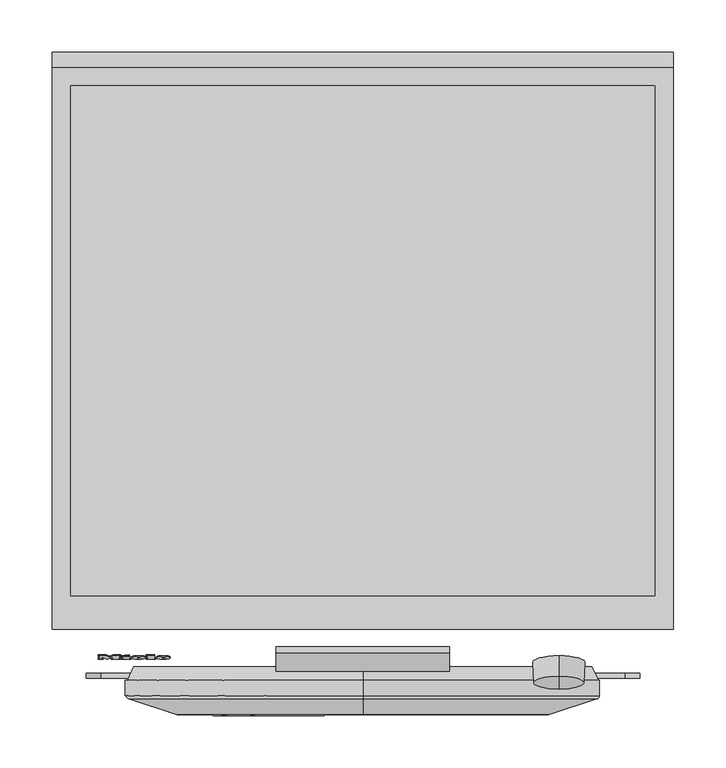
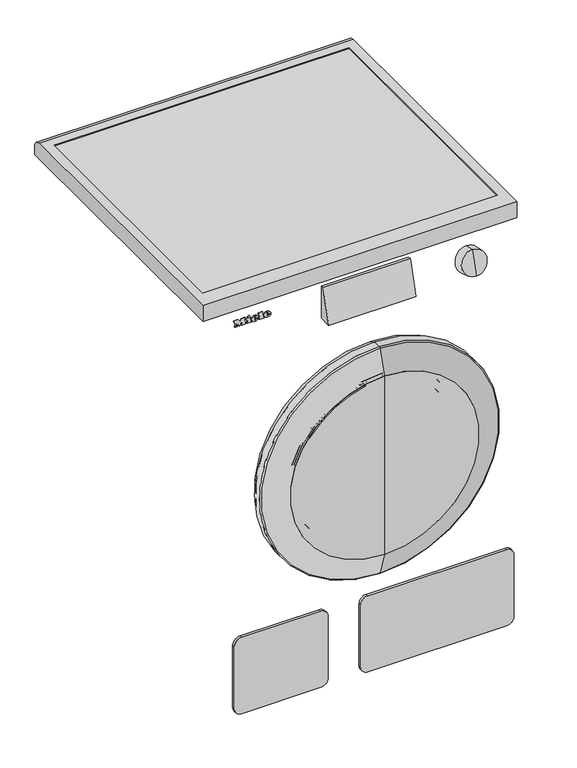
"""IFC4 building model written with IfcOpenShell, lengths in millimetres: proxy geometry, 12434320_NDS_WCB690WCS_LW : 11CB6901_NDS_12434320_WCB690WCS_LW."""

from ifc_helpers import new_model, si_unit, point, frame, frame_2d, origin, place, context, project, spatial, polyline, circle_curve, ellipse_curve, trimmed, segment, composite_curve, outline, extrude, source, transform, mapped, element, save
from ifc_brep_helpers import plane_surface, cylinder_surface, revolved_surface, extruded_surface, advanced_brep


def specialty_equipment_345730a7(model_context):
    return source(origin(), model_context, "Body", "SolidModel", [
        extrude(outline(polyline([(0.0, 0.0), (0.0, -1.8582), (-7.9458, -1.8582), (-11.286, 2.4168), (-14.6148, -1.8582), (-21.5574, -1.8582), (-21.5574, 0.0), (-20.1096, 0.0), (-20.1096, 7.6266), (-21.5574, 7.6266), (-21.5574, 9.5418), (-12.4602, 9.5418), (-12.4602, 7.6266), (-13.8624, 7.6266), (-13.8624, 2.6015777), (-8.7438, 9.5418), (-3.648, 2.7988753), (-3.648, 7.6266), (-5.016, 7.6266), (-5.016, 9.5418), (0.0, 9.5418), (0.0, 7.6266), (-1.3794, 7.6266), (-1.3794, 0.0), (0.0, 0.0)])), frame((-254.0, -578.2806922, 817.2814843), z_axis=(0.0, -0.9659258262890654, 0.2588190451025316), x_axis=(-1.0, 0.0, 0.0)), (0.0, 0.0, 1.0), 1.0),
        extrude(outline(polyline([(0.0, 0.0), (-0.0155448, -4.2740444), (-2.0506341, -4.2637237), (-2.0399312, 0.0), (0.0, 0.0)])), frame((-228.464, -577.9348294, 818.5722618), z_axis=(0.0, -0.9659258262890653, 0.2588190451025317), x_axis=(-0.4247202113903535, 0.23431526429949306, 0.8744764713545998)), (0.0, 0.0, 1.0), 1.0),
        extrude(outline(polyline([(-0.7030818, 3.4401063), (-3.9616202, -3.5057256), (-10.0405132, -0.6538993), (-10.6021632, -1.8511006), (-12.336041, -1.0376764), (-8.5158526, 7.1053568), (-6.7819748, 6.2919326), (-7.3581502, 5.0637692), (-3.1266627, 3.0786269), (-2.5504873, 4.3067903), (-0.7030818, 3.4401063)])), frame((-228.464, -577.9348294, 818.5722618), z_axis=(0.0, -0.9659258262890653, 0.2588190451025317), x_axis=(-0.4247202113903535, 0.23431526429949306, 0.8744764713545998)), (0.0, 0.0, 1.0), 1.0),
        extrude(outline(polyline([(0.0, 0.0), (0.0, -1.8582), (-7.8432, -1.8582), (-7.8432, 7.6266), (-9.2454, 7.6266), (-9.2454, 9.5418), (0.0, 9.5418), (0.0, 7.6266), (-1.368, 7.6266), (-1.368, 0.0), (0.0, 0.0)])), frame((-207.7388, -578.2806922, 817.2814843), z_axis=(0.0, -0.9659258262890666, 0.2588190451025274), x_axis=(-1.0, 0.0, 0.0)), (0.0, 0.0, 1.0), 1.0),
        advanced_brep(
        [(-216.0038, -581.029736, 810.8856165), (-216.0038, -580.7317318, 811.9977835), (-208.3772, -580.7317318, 811.9977835), (-221.6468, -580.7317318, 811.9977835), (-218.5118, -581.7290133, 808.2758781), (-208.571, -581.029736, 810.8856165), (-212.0138, -581.029736, 810.8856165), (-214.727, -581.3601962, 809.6523224), (-216.0038, -580.354063, 813.4072624), (-216.0038, -580.0324545, 814.6075219), (-214.0544, -580.0324545, 814.6075219), (-214.0544, -580.354063, 813.4072624), (-216.0038, -580.0638102, 810.6267974), (-214.727, -580.3942704, 809.3935033), (-212.0138, -580.0638102, 810.6267974), (-208.571, -580.0638102, 810.6267974), (-218.5118, -580.7630875, 808.017059), (-221.6468, -579.765806, 811.7389644), (-208.3772, -579.765806, 811.7389644), (-216.0038, -579.765806, 811.7389644), (-216.0038, -579.3881372, 813.1484434), (-214.0544, -579.3881372, 813.1484434), (-214.0544, -579.0665287, 814.3487028), (-216.0038, -579.0665287, 814.3487028)],
        [
            (0, 1),
            (1, 2),
            (2, 3, ellipse_curve(frame((-215.012, -580.7317318, 811.9977835), z_axis=(0.0, -0.9659258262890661, 0.2588190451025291), x_axis=(-1.0, 0.0, 0.0)), 6.6348, 5.4834)),
            (3, 4, circle_curve(frame((-217.2349378, -580.6314135, 812.3721763), z_axis=(0.0, -0.9659258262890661, 0.2588190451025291), x_axis=(0.0, -0.2588190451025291, -0.9659258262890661)), 4.4288556)),
            (4, 5, circle_curve(frame((-215.1448192, -579.8524717, 815.2792267), z_axis=(0.0, -0.9659258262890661, 0.2588190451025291), x_axis=(0.0, -0.2588190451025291, -0.9659258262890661)), 7.9940516)),
            (5, 6),
            (6, 7, circle_curve(frame((-214.1697412, -580.7553361, 811.909691), z_axis=(0.0, 0.9659258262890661, -0.2588190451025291), x_axis=(0.0, -0.2588190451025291, -0.9659258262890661)), 2.4025208)),
            (7, 0, circle_curve(frame((-214.727, -581.029736, 810.8856165), z_axis=(0.0, 0.9659258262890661, -0.2588190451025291), x_axis=(0.0, -0.2588190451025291, -0.9659258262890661)), 1.2768)),
            (8, 9),
            (9, 10, circle_curve(frame((-215.0291, -580.0324545, 814.6075219), z_axis=(0.0, 0.9659258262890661, -0.2588190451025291), x_axis=(0.0, -0.2588190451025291, -0.9659258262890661)), 0.9747)),
            (10, 11),
            (11, 8),
            (12, 13, circle_curve(frame((-214.727, -580.0638102, 810.6267974), z_axis=(0.0, -0.9659258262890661, 0.2588190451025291), x_axis=(0.0, -0.2588190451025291, -0.9659258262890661)), 1.2768)),
            (13, 14, circle_curve(frame((-214.1697412, -579.7894103, 811.650872), z_axis=(0.0, -0.9659258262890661, 0.2588190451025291), x_axis=(0.0, -0.2588190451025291, -0.9659258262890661)), 2.4025208)),
            (14, 15),
            (15, 16, circle_curve(frame((-215.1448192, -578.8865459, 815.0204076), z_axis=(0.0, 0.9659258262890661, -0.2588190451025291), x_axis=(0.0, -0.2588190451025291, -0.9659258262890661)), 7.9940516)),
            (16, 17, circle_curve(frame((-217.2349378, -579.6654877, 812.1133573), z_axis=(0.0, 0.9659258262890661, -0.2588190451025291), x_axis=(0.0, -0.2588190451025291, -0.9659258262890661)), 4.4288556)),
            (17, 18, ellipse_curve(frame((-215.012, -579.765806, 811.7389644), z_axis=(0.0, 0.9659258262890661, -0.2588190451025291), x_axis=(-1.0, 0.0, 0.0)), 6.6348, 5.4834)),
            (18, 19),
            (19, 12),
            (20, 21),
            (21, 22),
            (22, 23, circle_curve(frame((-215.0291, -579.0665287, 814.3487028), z_axis=(0.0, -0.9659258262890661, 0.2588190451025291), x_axis=(0.0, -0.2588190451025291, -0.9659258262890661)), 0.9747)),
            (23, 20),
            (0, 12),
            (19, 1),
            (18, 2),
            (5, 15),
            (14, 6),
            (17, 3),
            (13, 7),
            (16, 4),
            (8, 20),
            (23, 9),
            (22, 10),
            (21, 11),
        ],
        [
            plane_surface(frame((-216.0038, -580.7317318, 811.9977835), z_axis=(0.0, -0.9659258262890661, 0.2588190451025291), x_axis=(0.0, 0.2588190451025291, 0.9659258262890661))),
            plane_surface(frame((-216.0038, -579.765806, 811.7389644), z_axis=(0.0, 0.9659258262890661, -0.2588190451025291), x_axis=(0.0, -0.2588190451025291, -0.9659258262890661))),
            plane_surface(frame((-216.0038, -581.029736, 810.8856165), z_axis=(1.0, 0.0, 0.0), x_axis=(0.0, 0.9659258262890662, -0.25881904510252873))),
            plane_surface(frame((-216.0038, -580.7317318, 811.9977835), z_axis=(0.0, -0.25881904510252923, -0.9659258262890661), x_axis=(0.0, 0.9659258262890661, -0.25881904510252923))),
            plane_surface(frame((-208.571, -581.029736, 810.8856165), z_axis=(0.0, 0.25881904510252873, 0.9659258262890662), x_axis=(0.0, 0.9659258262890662, -0.25881904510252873))),
            extruded_surface(trimmed(ellipse_curve(frame((-215.012, -578.7998801, 811.4801454), z_axis=(0.0, -0.9659258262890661, 0.2588190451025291), x_axis=(-1.0, 0.0, 0.0)), 6.6348, 5.4834), [point((-208.3772, -578.7998801, 811.4801454))], [point((-221.6468, -578.7998801, 811.4801454))], True, "CARTESIAN"), (0.0, -0.965925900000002, 0.2588190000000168), 1.0000000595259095),
            revolved_surface(polyline([(-214.1697412, -580.4112283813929, 809.3302150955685), (-214.1697412, -581.3771542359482, 809.589034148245)]), (-214.1697412, -579.7894103, 811.650872), (0.0, 0.9659258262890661, -0.2588190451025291)),
            revolved_surface(polyline([(-214.727, -580.3942703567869, 809.393503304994), (-214.727, -581.3601962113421, 809.6523223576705)]), (-214.727, -580.0638102, 810.6267974), (0.0, 0.9659258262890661, -0.2588190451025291)),
            cylinder_surface(frame((-217.2349378, -579.6654877, 812.1133573), z_axis=(0.0, -0.9659258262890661, 0.2588190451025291), x_axis=(0.0, -0.2588190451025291, -0.9659258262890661)), 4.4288556),
            cylinder_surface(frame((-215.1448192, -578.8865459, 815.0204076), z_axis=(0.0, -0.9659258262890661, 0.2588190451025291), x_axis=(0.0, -0.2588190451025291, -0.9659258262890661)), 7.9940516),
            plane_surface(frame((-216.0038, -580.354063, 813.4072624), z_axis=(1.0, 0.0, 0.0), x_axis=(0.0, 0.9659258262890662, -0.25881904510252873))),
            revolved_surface(polyline([(-215.0291, -579.3187996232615, 813.407214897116), (-215.0291, -580.2847254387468, 813.6660339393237)]), (-215.0291, -579.0665287, 814.3487028), (0.0, 0.9659258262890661, -0.2588190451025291)),
            plane_surface(frame((-214.0544, -580.0324545, 814.6075219), z_axis=(-1.0, 0.0, 0.0), x_axis=(0.0, 0.9659258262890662, -0.25881904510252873))),
            plane_surface(frame((-214.0544, -580.354063, 813.4072624), z_axis=(0.0, 0.25881904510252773, 0.9659258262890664), x_axis=(0.0, 0.9659258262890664, -0.25881904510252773))),
        ],
        [
            (0, [[1, 2, 3, 4, 5, 6, 7, 8], [9, 10, 11, 12]]),
            (1, [[13, 14, 15, 16, 17, 18, 19, 20], [21, 22, 23, 24]]),
            (2, [[-1, 25, -20, 26]]),
            (3, [[-2, -26, -19, 27]]),
            (4, [[-6, 28, -15, 29]]),
            (5, [[-3, -27, -18, 30]]),
            (6, [[-7, -29, -14, 31]]),
            (7, [[-8, -31, -13, -25]]),
            (8, [[-4, -30, -17, 32]]),
            (9, [[-5, -32, -16, -28]]),
            (10, [[-9, 33, -24, 34]]),
            (11, [[-10, -34, -23, 35]]),
            (12, [[-11, -35, -22, 36]]),
            (13, [[-12, -36, -21, -33]]),
        ],
    ),
        advanced_brep(
        [(-192.212, -581.029736, 810.8856165), (-192.212, -580.7317318, 811.9977835), (-184.5854, -580.7317318, 811.9977835), (-197.855, -580.7317318, 811.9977835), (-194.72, -581.7290133, 808.2758781), (-184.7792, -581.029736, 810.8856165), (-188.222, -581.029736, 810.8856165), (-190.9352, -581.3601962, 809.6523224), (-192.212, -580.354063, 813.4072624), (-192.212, -580.0324545, 814.6075219), (-190.2626, -580.0324545, 814.6075219), (-190.2626, -580.354063, 813.4072624), (-192.212, -580.0638102, 810.6267974), (-190.9352, -580.3942704, 809.3935033), (-188.222, -580.0638102, 810.6267974), (-184.7792, -580.0638102, 810.6267974), (-194.72, -580.7630875, 808.017059), (-197.855, -579.765806, 811.7389644), (-184.5854, -579.765806, 811.7389644), (-192.212, -579.765806, 811.7389644), (-192.212, -579.3881372, 813.1484434), (-190.2626, -579.3881372, 813.1484434), (-190.2626, -579.0665287, 814.3487028), (-192.212, -579.0665287, 814.3487028)],
        [
            (0, 1),
            (1, 2),
            (2, 3, ellipse_curve(frame((-191.2202, -580.7317318, 811.9977835), z_axis=(0.0, -0.965925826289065, 0.25881904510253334), x_axis=(-1.0, 0.0, 0.0)), 6.6348, 5.4834)),
            (3, 4, circle_curve(frame((-193.4431378, -580.6314135, 812.3721763), z_axis=(0.0, -0.9659258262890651, 0.25881904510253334), x_axis=(0.0, -0.2588190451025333, -0.9659258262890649)), 4.4288556)),
            (4, 5, circle_curve(frame((-191.3530192, -579.8524717, 815.2792267), z_axis=(0.0, -0.9659258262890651, 0.25881904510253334), x_axis=(0.0, -0.2588190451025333, -0.9659258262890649)), 7.9940516)),
            (5, 6),
            (6, 7, circle_curve(frame((-190.3779412, -580.7553361, 811.909691), z_axis=(0.0, 0.9659258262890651, -0.25881904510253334), x_axis=(0.0, -0.2588190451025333, -0.9659258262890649)), 2.4025208)),
            (7, 0, circle_curve(frame((-190.9352, -581.029736, 810.8856165), z_axis=(0.0, 0.9659258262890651, -0.25881904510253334), x_axis=(0.0, -0.2588190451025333, -0.9659258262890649)), 1.2768)),
            (8, 9),
            (9, 10, circle_curve(frame((-191.2373, -580.0324545, 814.6075219), z_axis=(0.0, 0.9659258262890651, -0.25881904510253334), x_axis=(0.0, -0.2588190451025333, -0.9659258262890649)), 0.9747)),
            (10, 11),
            (11, 8),
            (12, 13, circle_curve(frame((-190.9352, -580.0638102, 810.6267974), z_axis=(0.0, -0.9659258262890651, 0.25881904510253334), x_axis=(0.0, -0.2588190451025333, -0.9659258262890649)), 1.2768)),
            (13, 14, circle_curve(frame((-190.3779412, -579.7894103, 811.650872), z_axis=(0.0, -0.9659258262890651, 0.25881904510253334), x_axis=(0.0, -0.2588190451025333, -0.9659258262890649)), 2.4025208)),
            (14, 15),
            (15, 16, circle_curve(frame((-191.3530192, -578.8865459, 815.0204076), z_axis=(0.0, 0.9659258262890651, -0.25881904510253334), x_axis=(0.0, -0.2588190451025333, -0.9659258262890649)), 7.9940516)),
            (16, 17, circle_curve(frame((-193.4431378, -579.6654877, 812.1133573), z_axis=(0.0, 0.9659258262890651, -0.25881904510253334), x_axis=(0.0, -0.2588190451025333, -0.9659258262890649)), 4.4288556)),
            (17, 18, ellipse_curve(frame((-191.2202, -579.765806, 811.7389644), z_axis=(0.0, 0.965925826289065, -0.25881904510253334), x_axis=(-1.0, 0.0, 0.0)), 6.6348, 5.4834)),
            (18, 19),
            (19, 12),
            (20, 21),
            (21, 22),
            (22, 23, circle_curve(frame((-191.2373, -579.0665287, 814.3487028), z_axis=(0.0, -0.9659258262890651, 0.25881904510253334), x_axis=(0.0, -0.2588190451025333, -0.9659258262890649)), 0.9747)),
            (23, 20),
            (0, 12),
            (19, 1),
            (18, 2),
            (5, 15),
            (14, 6),
            (17, 3),
            (13, 7),
            (16, 4),
            (8, 20),
            (23, 9),
            (22, 10),
            (21, 11),
        ],
        [
            plane_surface(frame((-192.212, -580.7317318, 811.9977835), z_axis=(0.0, -0.965925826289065, 0.25881904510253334), x_axis=(0.0, 0.25881904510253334, 0.965925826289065))),
            plane_surface(frame((-192.212, -579.765806, 811.7389644), z_axis=(0.0, 0.965925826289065, -0.25881904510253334), x_axis=(0.0, -0.25881904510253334, -0.965925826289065))),
            plane_surface(frame((-192.212, -581.029736, 810.8856165), z_axis=(1.0, 0.0, 0.0), x_axis=(0.0, 0.9659258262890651, -0.2588190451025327))),
            plane_surface(frame((-192.212, -580.7317318, 811.9977835), z_axis=(0.0, -0.25881904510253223, -0.9659258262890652), x_axis=(0.0, 0.9659258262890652, -0.25881904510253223))),
            plane_surface(frame((-184.7792, -581.029736, 810.8856165), z_axis=(0.0, 0.2588190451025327, 0.9659258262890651), x_axis=(0.0, 0.9659258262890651, -0.2588190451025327))),
            extruded_surface(trimmed(ellipse_curve(frame((-191.2202, -578.7998801, 811.4801454), z_axis=(0.0, -0.965925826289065, 0.25881904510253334), x_axis=(-1.0, 0.0, 0.0)), 6.6348, 5.4834), [point((-184.5854, -578.7998801, 811.4801454))], [point((-197.855, -578.7998801, 811.4801454))], True, "CARTESIAN"), (0.0, -0.965925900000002, 0.2588190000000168), 1.0000000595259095),
            revolved_surface(polyline([(-190.3779412, -580.4112283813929, 809.3302150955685), (-190.3779412, -581.3771542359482, 809.589034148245)]), (-190.3779412, -579.7894103, 811.650872), (0.0, 0.9659258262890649, -0.2588190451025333)),
            revolved_surface(polyline([(-190.9352, -580.3942703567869, 809.393503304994), (-190.9352, -581.3601962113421, 809.6523223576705)]), (-190.9352, -580.0638102, 810.6267974), (0.0, 0.9659258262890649, -0.2588190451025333)),
            cylinder_surface(frame((-193.4431378, -579.6654877, 812.1133573), z_axis=(0.0, -0.9659258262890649, 0.2588190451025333), x_axis=(0.0, -0.2588190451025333, -0.9659258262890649)), 4.4288556),
            cylinder_surface(frame((-191.3530192, -578.8865459, 815.0204076), z_axis=(0.0, -0.9659258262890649, 0.2588190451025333), x_axis=(0.0, -0.2588190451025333, -0.9659258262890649)), 7.9940516),
            plane_surface(frame((-192.212, -580.354063, 813.4072624), z_axis=(1.0, 0.0, 0.0), x_axis=(0.0, 0.9659258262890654, -0.25881904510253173))),
            revolved_surface(polyline([(-191.2373, -579.3187996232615, 813.407214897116), (-191.2373, -580.2847254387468, 813.6660339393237)]), (-191.2373, -579.0665287, 814.3487028), (0.0, 0.9659258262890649, -0.2588190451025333)),
            plane_surface(frame((-190.2626, -580.0324545, 814.6075219), z_axis=(-1.0, 0.0, 0.0), x_axis=(0.0, 0.9659258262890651, -0.2588190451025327))),
            plane_surface(frame((-190.2626, -580.354063, 813.4072624), z_axis=(0.0, 0.2588190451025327, 0.9659258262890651), x_axis=(0.0, 0.9659258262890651, -0.2588190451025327))),
        ],
        [
            (0, [[1, 2, 3, 4, 5, 6, 7, 8], [9, 10, 11, 12]]),
            (1, [[13, 14, 15, 16, 17, 18, 19, 20], [21, 22, 23, 24]]),
            (2, [[-1, 25, -20, 26]]),
            (3, [[-2, -26, -19, 27]]),
            (4, [[-6, 28, -15, 29]]),
            (5, [[-3, -27, -18, 30]]),
            (6, [[-7, -29, -14, 31]]),
            (7, [[-8, -31, -13, -25]]),
            (8, [[-4, -30, -17, 32]]),
            (9, [[-5, -32, -16, -28]]),
            (10, [[-9, 33, -24, 34]]),
            (11, [[-10, -34, -23, 35]]),
            (12, [[-11, -35, -22, 36]]),
            (13, [[-12, -36, -21, -33]]),
        ],
    ),
        extrude(outline(composite_curve([segment(trimmed(circle_curve(frame_2d((475.0, 0.0)), 179.0077488), [point((650.0572384, -37.3996979))], [point((581.8669772, -143.6078804))], False, "CARTESIAN"), True, "CONTINUOUS"), segment(polyline([(581.8669772, -143.6078804), (580.6729844, -142.0033925)]), True, "CONTINUOUS"), segment(trimmed(circle_curve(frame_2d((475.0, 0.0)), 177.0077488), [point((580.6729844, -142.0033925))], [point((648.1013763, -36.9818423))], True, "CARTESIAN"), True, "CONTINUOUS"), segment(polyline([(648.1013763, -36.9818423), (650.0572384, -37.3996979)]), True, "CONTINUOUS")], self_intersect=False)), frame((0.0, -636.0, 0.0), z_axis=(0.0, 1.0, 0.0), x_axis=(0.0, 0.0, 1.0)), (0.0, 0.0, 1.0), 1.0),
        advanced_brep(
        [(0.0, -635.0, 296.0), (0.0, -635.0, 654.0), (0.0, -630.9005671, 650.4364173), (0.0, -630.9005671, 299.5635827), (0.0, -635.0, 475.0), (0.0, -589.0, 326.0), (0.0, -589.0, 624.0), (0.0, -589.0, 475.0), (0.0, -592.0, 326.0), (0.0, -592.0, 624.0), (0.0, -592.0, 313.0), (0.0, -592.0, 637.0), (0.0, -610.8709778, 313.0), (0.0, -610.8709778, 637.0), (0.0, -628.93239, 297.2994539), (0.0, -628.93239, 652.7005461)],
        [
            (0, 1, circle_curve(frame((0.0, -635.0, 475.0), z_axis=(0.0, 1.0, 0.0), x_axis=(0.0, 0.0, 1.0)), 179.0)),
            (1, 2),
            (2, 3, circle_curve(frame((0.0, -630.9005671, 475.0), z_axis=(0.0, -1.0, 0.0), x_axis=(0.0, 0.0, 1.0)), 175.4364173)),
            (3, 0),
            (1, 0, circle_curve(frame((0.0, -635.0, 475.0), z_axis=(0.0, 1.0, 0.0), x_axis=(0.0, 0.0, 1.0)), 179.0)),
            (3, 2, circle_curve(frame((0.0, -630.9005671, 475.0), z_axis=(0.0, -1.0, 0.0), x_axis=(0.0, 0.0, 1.0)), 175.4364173)),
            (4, 1),
            (0, 4),
            (5, 6, circle_curve(frame((0.0, -589.0, 475.0), z_axis=(0.0, 1.0, 0.0), x_axis=(0.0, 0.0, 1.0)), 149.0)),
            (6, 7),
            (7, 5),
            (6, 5, circle_curve(frame((0.0, -589.0, 475.0), z_axis=(0.0, 1.0, 0.0), x_axis=(0.0, 0.0, 1.0)), 149.0)),
            (8, 9, circle_curve(frame((0.0, -592.0, 475.0), z_axis=(0.0, 1.0, 0.0), x_axis=(0.0, 0.0, 1.0)), 149.0)),
            (9, 6),
            (5, 8),
            (9, 8, circle_curve(frame((0.0, -592.0, 475.0), z_axis=(0.0, 1.0, 0.0), x_axis=(0.0, 0.0, 1.0)), 149.0)),
            (10, 11, circle_curve(frame((0.0, -592.0, 475.0), z_axis=(0.0, 1.0, 0.0), x_axis=(0.0, 0.0, 1.0)), 162.0)),
            (11, 9),
            (8, 10),
            (11, 10, circle_curve(frame((0.0, -592.0, 475.0), z_axis=(0.0, 1.0, 0.0), x_axis=(0.0, 0.0, 1.0)), 162.0)),
            (12, 13, circle_curve(frame((0.0, -610.8709778, 475.0), z_axis=(0.0, 1.0, 0.0), x_axis=(0.0, 0.0, 1.0)), 162.0)),
            (13, 11),
            (10, 12),
            (13, 12, circle_curve(frame((0.0, -610.8709778, 475.0), z_axis=(0.0, 1.0, 0.0), x_axis=(0.0, 0.0, 1.0)), 162.0)),
            (14, 15, circle_curve(frame((0.0, -628.93239, 475.0), z_axis=(0.0, 1.0, 0.0), x_axis=(0.0, 0.0, 1.0)), 177.7005461)),
            (15, 13),
            (12, 14),
            (15, 14, circle_curve(frame((0.0, -628.93239, 475.0), z_axis=(0.0, 1.0, 0.0), x_axis=(0.0, 0.0, 1.0)), 177.7005461)),
            (2, 15),
            (14, 3),
        ],
        [
            revolved_surface(polyline([(0.0, -630.9005671, 650.4364173), (0.0, -635.0, 654.0)]), (0.0, -2342.7556811, 475.0), (0.0, -1.0, 0.0)),
            plane_surface(frame((0.0, -635.0, 475.0), z_axis=(0.0, -1.0, 0.0), x_axis=(0.0, 0.0, 1.0))),
            plane_surface(frame((0.0, -589.0, 475.0), z_axis=(0.0, 1.0, 0.0), x_axis=(0.0, 0.0, 1.0))),
            cylinder_surface(frame((0.0, -2342.7556811, 475.0), z_axis=(0.0, -1.0, 0.0), x_axis=(0.0, 0.0, 1.0)), 149.0),
            plane_surface(frame((0.0, -592.0, 475.0), z_axis=(0.0, 1.0, 0.0), x_axis=(0.0, 0.0, 1.0))),
            cylinder_surface(frame((0.0, -2342.7556811, 475.0), z_axis=(0.0, -1.0, 0.0), x_axis=(0.0, 0.0, 1.0)), 162.0),
            revolved_surface(polyline([(0.0, -610.8709778, 637.0), (0.0, -628.93239, 652.7005461)]), (0.0, -2342.7556811, 475.0), (0.0, -1.0, 0.0)),
            revolved_surface(polyline([(0.0, -628.93239, 652.7005461), (0.0, -630.9005671, 650.4364173)]), (0.0, -2342.7556811, 475.0), (0.0, -1.0, 0.0)),
        ],
        [
            (0, [[1, 2, 3, 4]]),
            (0, [[5, -4, 6, -2]]),
            (1, [[7, -1, 8]]),
            (1, [[-8, -5, -7]]),
            (2, [[9, 10, 11]]),
            (2, [[12, -11, -10]]),
            (3, [[13, 14, -9, 15]]),
            (3, [[16, -15, -12, -14]]),
            (4, [[17, 18, -13, 19]]),
            (4, [[20, -19, -16, -18]]),
            (5, [[21, 22, -17, 23]]),
            (5, [[24, -23, -20, -22]]),
            (6, [[25, 26, -21, 27]]),
            (6, [[28, -27, -24, -26]]),
            (7, [[-3, 29, -25, 30]]),
            (7, [[-6, -30, -28, -29]]),
        ],
    ),
        advanced_brep(
        [(0.0, -589.0, 254.0), (0.0, -589.0, 696.0), (0.0, -589.0, 624.0), (0.0, -589.0, 326.0), (0.0, -602.0, 248.0), (0.0, -602.0, 702.0), (0.0, -602.0, 313.0), (0.0, -602.0, 637.0), (0.0, -592.0, 313.0), (0.0, -592.0, 637.0), (0.0, -592.0, 326.0), (0.0, -592.0, 624.0)],
        [
            (0, 1, circle_curve(frame((0.0, -589.0, 475.0), z_axis=(0.0, 1.0, 0.0), x_axis=(0.0, 0.0, 1.0)), 221.0)),
            (1, 2),
            (2, 3, circle_curve(frame((0.0, -589.0, 475.0), z_axis=(0.0, -1.0, 0.0), x_axis=(0.0, 0.0, 1.0)), 149.0)),
            (3, 0),
            (1, 0, circle_curve(frame((0.0, -589.0, 475.0), z_axis=(0.0, 1.0, 0.0), x_axis=(0.0, 0.0, 1.0)), 221.0)),
            (3, 2, circle_curve(frame((0.0, -589.0, 475.0), z_axis=(0.0, -1.0, 0.0), x_axis=(0.0, 0.0, 1.0)), 149.0)),
            (4, 5, circle_curve(frame((0.0, -602.0, 475.0), z_axis=(0.0, 1.0, 0.0), x_axis=(0.0, 0.0, 1.0)), 227.0)),
            (5, 1),
            (0, 4),
            (5, 4, circle_curve(frame((0.0, -602.0, 475.0), z_axis=(0.0, 1.0, 0.0), x_axis=(0.0, 0.0, 1.0)), 227.0)),
            (6, 7, circle_curve(frame((0.0, -602.0, 475.0), z_axis=(0.0, 1.0, 0.0), x_axis=(0.0, 0.0, 1.0)), 162.0)),
            (7, 5),
            (4, 6),
            (7, 6, circle_curve(frame((0.0, -602.0, 475.0), z_axis=(0.0, 1.0, 0.0), x_axis=(0.0, 0.0, 1.0)), 162.0)),
            (8, 9, circle_curve(frame((0.0, -592.0, 475.0), z_axis=(0.0, 1.0, 0.0), x_axis=(0.0, 0.0, 1.0)), 162.0)),
            (9, 7),
            (6, 8),
            (9, 8, circle_curve(frame((0.0, -592.0, 475.0), z_axis=(0.0, 1.0, 0.0), x_axis=(0.0, 0.0, 1.0)), 162.0)),
            (10, 11, circle_curve(frame((0.0, -592.0, 475.0), z_axis=(0.0, 1.0, 0.0), x_axis=(0.0, 0.0, 1.0)), 149.0)),
            (11, 9),
            (8, 10),
            (11, 10, circle_curve(frame((0.0, -592.0, 475.0), z_axis=(0.0, 1.0, 0.0), x_axis=(0.0, 0.0, 1.0)), 149.0)),
            (2, 11),
            (10, 3),
        ],
        [
            plane_surface(frame((0.0, -589.0, 475.0), z_axis=(0.0, 1.0, 0.0), x_axis=(0.0, 0.0, 1.0))),
            revolved_surface(polyline([(0.0, -589.0, 696.0), (0.0, -602.0, 702.0)]), (0.0, -2342.7556811, 475.0), (0.0, -1.0, 0.0)),
            plane_surface(frame((0.0, -602.0, 475.0), z_axis=(0.0, -1.0, 0.0), x_axis=(0.0, 0.0, 1.0))),
            revolved_surface(polyline([(0.0, -602.0, 637.0), (0.0, -592.0, 637.0)]), (0.0, -2342.7556811, 475.0), (0.0, -1.0, 0.0)),
            plane_surface(frame((0.0, -592.0, 475.0), z_axis=(0.0, -1.0, 0.0), x_axis=(0.0, 0.0, 1.0))),
            revolved_surface(polyline([(0.0, -592.0, 624.0), (0.0, -589.0, 624.0)]), (0.0, -2342.7556811, 475.0), (0.0, -1.0, 0.0)),
        ],
        [
            (0, [[1, 2, 3, 4]]),
            (0, [[5, -4, 6, -2]]),
            (1, [[7, 8, -1, 9]]),
            (1, [[10, -9, -5, -8]]),
            (2, [[11, 12, -7, 13]]),
            (2, [[14, -13, -10, -12]]),
            (3, [[15, 16, -11, 17]]),
            (3, [[18, -17, -14, -16]]),
            (4, [[19, 20, -15, 21]]),
            (4, [[22, -21, -18, -20]]),
            (5, [[-3, 23, -19, 24]]),
            (5, [[-6, -24, -22, -23]]),
        ],
    ),
        advanced_brep(
        [(0.0, -628.93239, 297.2994539), (0.0, -628.93239, 652.7005461), (0.0, -626.9642129, 654.9646748), (0.0, -626.9642129, 295.0353252), (0.0, -610.8709778, 313.0), (0.0, -610.8709778, 637.0), (0.0, -602.0, 313.0), (0.0, -602.0, 637.0), (0.0, -609.7493238, 640.0), (0.0, -609.7493238, 310.0), (0.0, -602.0, 310.0), (0.0, -602.0, 640.0)],
        [
            (0, 1, circle_curve(frame((0.0, -628.93239, 475.0), z_axis=(0.0, 1.0, 0.0), x_axis=(0.0, 0.0, 1.0)), 177.7005461)),
            (1, 2),
            (2, 3, circle_curve(frame((0.0, -626.9642129, 475.0), z_axis=(0.0, -1.0, 0.0), x_axis=(0.0, 0.0, 1.0)), 179.9646748)),
            (3, 0),
            (1, 0, circle_curve(frame((0.0, -628.93239, 475.0), z_axis=(0.0, 1.0, 0.0), x_axis=(0.0, 0.0, 1.0)), 177.7005461)),
            (3, 2, circle_curve(frame((0.0, -626.9642129, 475.0), z_axis=(0.0, -1.0, 0.0), x_axis=(0.0, 0.0, 1.0)), 179.9646748)),
            (4, 5, circle_curve(frame((0.0, -610.8709778, 475.0), z_axis=(0.0, 1.0, 0.0), x_axis=(0.0, 0.0, 1.0)), 162.0)),
            (5, 1),
            (0, 4),
            (5, 4, circle_curve(frame((0.0, -610.8709778, 475.0), z_axis=(0.0, 1.0, 0.0), x_axis=(0.0, 0.0, 1.0)), 162.0)),
            (6, 7, circle_curve(frame((0.0, -602.0, 475.0), z_axis=(0.0, 1.0, 0.0), x_axis=(0.0, 0.0, 1.0)), 162.0)),
            (7, 5),
            (4, 6),
            (7, 6, circle_curve(frame((0.0, -602.0, 475.0), z_axis=(0.0, 1.0, 0.0), x_axis=(0.0, 0.0, 1.0)), 162.0)),
            (2, 8),
            (8, 9, circle_curve(frame((0.0, -609.7493238, 475.0), z_axis=(0.0, -1.0, 0.0), x_axis=(0.0, 0.0, 1.0)), 165.0)),
            (9, 3),
            (9, 8, circle_curve(frame((0.0, -609.7493238, 475.0), z_axis=(0.0, -1.0, 0.0), x_axis=(0.0, 0.0, 1.0)), 165.0)),
            (10, 11, circle_curve(frame((0.0, -602.0, 475.0), z_axis=(0.0, 1.0, 0.0), x_axis=(0.0, 0.0, 1.0)), 165.0)),
            (11, 7),
            (6, 10),
            (11, 10, circle_curve(frame((0.0, -602.0, 475.0), z_axis=(0.0, 1.0, 0.0), x_axis=(0.0, 0.0, 1.0)), 165.0)),
            (8, 11),
            (10, 9),
        ],
        [
            revolved_surface(polyline([(0.0, -626.9642129, 654.9646748), (0.0, -628.93239, 652.7005461)]), (0.0, -2342.7556811, 475.0), (0.0, -1.0, 0.0)),
            revolved_surface(polyline([(0.0, -628.93239, 652.7005461), (0.0, -610.8709778, 637.0)]), (0.0, -2342.7556811, 475.0), (0.0, -1.0, 0.0)),
            revolved_surface(polyline([(0.0, -610.8709778, 637.0), (0.0, -602.0, 637.0)]), (0.0, -2342.7556811, 475.0), (0.0, -1.0, 0.0)),
            revolved_surface(polyline([(0.0, -609.7493238, 640.0), (0.0, -626.9642129, 654.9646748)]), (0.0, -2342.7556811, 475.0), (0.0, -1.0, 0.0)),
            plane_surface(frame((0.0, -602.0, 475.0), z_axis=(0.0, 1.0, 0.0), x_axis=(0.0, 0.0, 1.0))),
            cylinder_surface(frame((0.0, -2342.7556811, 475.0), z_axis=(0.0, -1.0, 0.0), x_axis=(0.0, 0.0, 1.0)), 165.0),
        ],
        [
            (0, [[1, 2, 3, 4]]),
            (0, [[5, -4, 6, -2]]),
            (1, [[7, 8, -1, 9]]),
            (1, [[10, -9, -5, -8]]),
            (2, [[11, 12, -7, 13]]),
            (2, [[14, -13, -10, -12]]),
            (3, [[-3, 15, 16, 17]]),
            (3, [[-6, -17, 18, -15]]),
            (4, [[19, 20, -11, 21]]),
            (4, [[22, -21, -14, -20]]),
            (5, [[-16, 23, -19, 24]]),
            (5, [[-18, -24, -22, -23]]),
        ],
    ),
        advanced_brep(
        [(0.0, -616.8993073, 247.0), (0.0, -616.8993073, 703.0), (0.0, -602.0, 703.0), (0.0, -602.0, 247.0), (0.0, -619.7524768, 249.072949), (0.0, -619.7524768, 700.927051), (0.0, -635.0, 296.0), (0.0, -635.0, 654.0), (0.0, -630.9005671, 299.5635827), (0.0, -630.9005671, 650.4364173), (0.0, -626.9642129, 295.0353252), (0.0, -626.9642129, 654.9646748), (0.0, -609.7493238, 310.0), (0.0, -609.7493238, 640.0), (0.0, -602.0, 640.0), (0.0, -602.0, 310.0)],
        [
            (0, 1, circle_curve(frame((0.0, -616.8993073, 475.0), z_axis=(0.0, 1.0, 0.0), x_axis=(0.0, 0.0, 1.0)), 228.0)),
            (1, 2),
            (2, 3, circle_curve(frame((0.0, -602.0, 475.0), z_axis=(0.0, -1.0, 0.0), x_axis=(0.0, 0.0, 1.0)), 228.0)),
            (3, 0),
            (1, 0, circle_curve(frame((0.0, -616.8993073, 475.0), z_axis=(0.0, 1.0, 0.0), x_axis=(0.0, 0.0, 1.0)), 228.0)),
            (3, 2, circle_curve(frame((0.0, -602.0, 475.0), z_axis=(0.0, -1.0, 0.0), x_axis=(0.0, 0.0, 1.0)), 228.0)),
            (4, 5, circle_curve(frame((0.0, -619.7524768, 475.0), z_axis=(0.0, 1.0, 0.0), x_axis=(0.0, 0.0, 1.0)), 225.927051)),
            (5, 1, circle_curve(frame((0.0, -616.8993073, 700.0), z_axis=(-1.0, 0.0, 0.0), x_axis=(0.0, 1.0, 0.0)), 3.0)),
            (0, 4, circle_curve(frame((0.0, -616.8993073, 250.0), z_axis=(-1.0, 0.0, 0.0), x_axis=(0.0, 1.0, 0.0)), 3.0)),
            (5, 4, circle_curve(frame((0.0, -619.7524768, 475.0), z_axis=(0.0, 1.0, 0.0), x_axis=(0.0, 0.0, 1.0)), 225.927051)),
            (6, 7, circle_curve(frame((0.0, -635.0, 475.0), z_axis=(0.0, 1.0, 0.0), x_axis=(0.0, 0.0, 1.0)), 179.0)),
            (7, 5),
            (4, 6),
            (7, 6, circle_curve(frame((0.0, -635.0, 475.0), z_axis=(0.0, 1.0, 0.0), x_axis=(0.0, 0.0, 1.0)), 179.0)),
            (8, 9, circle_curve(frame((0.0, -630.9005671, 475.0), z_axis=(0.0, 1.0, 0.0), x_axis=(0.0, 0.0, 1.0)), 175.4364173)),
            (9, 7),
            (6, 8),
            (9, 8, circle_curve(frame((0.0, -630.9005671, 475.0), z_axis=(0.0, 1.0, 0.0), x_axis=(0.0, 0.0, 1.0)), 175.4364173)),
            (10, 11, circle_curve(frame((0.0, -626.9642129, 475.0), z_axis=(0.0, 1.0, 0.0), x_axis=(0.0, 0.0, 1.0)), 179.9646748)),
            (11, 9),
            (8, 10),
            (11, 10, circle_curve(frame((0.0, -626.9642129, 475.0), z_axis=(0.0, 1.0, 0.0), x_axis=(0.0, 0.0, 1.0)), 179.9646748)),
            (12, 13, circle_curve(frame((0.0, -609.7493238, 475.0), z_axis=(0.0, 1.0, 0.0), x_axis=(0.0, 0.0, 1.0)), 165.0)),
            (13, 11),
            (10, 12),
            (13, 12, circle_curve(frame((0.0, -609.7493238, 475.0), z_axis=(0.0, 1.0, 0.0), x_axis=(0.0, 0.0, 1.0)), 165.0)),
            (2, 14),
            (14, 15, circle_curve(frame((0.0, -602.0, 475.0), z_axis=(0.0, -1.0, 0.0), x_axis=(0.0, 0.0, 1.0)), 165.0)),
            (15, 3),
            (15, 14, circle_curve(frame((0.0, -602.0, 475.0), z_axis=(0.0, -1.0, 0.0), x_axis=(0.0, 0.0, 1.0)), 165.0)),
            (14, 13),
            (12, 15),
        ],
        [
            cylinder_surface(frame((0.0, -2342.7556811, 475.0), z_axis=(0.0, -1.0, 0.0), x_axis=(0.0, 0.0, 1.0)), 228.0),
            revolved_surface(trimmed(ellipse_curve(frame((0.0, -616.8993073, 700.0), z_axis=(1.0, 0.0, 0.0), x_axis=(0.0, 1.0, 0.0)), 3.0, 3.0), [point((0.0, -616.8993073, 703.0))], [point((0.0, -619.7524768, 700.927051))], True, "CARTESIAN"), (0.0, -2342.7556811, 475.0), (0.0, -1.0, 0.0)),
            revolved_surface(polyline([(0.0, -619.7524768, 700.927051), (0.0, -635.0, 654.0)]), (0.0, -2342.7556811, 475.0), (0.0, -1.0, 0.0)),
            revolved_surface(polyline([(0.0, -635.0, 654.0), (0.0, -630.9005671, 650.4364173)]), (0.0, -2342.7556811, 475.0), (0.0, -1.0, 0.0)),
            revolved_surface(polyline([(0.0, -630.9005671, 650.4364173), (0.0, -626.9642129, 654.9646748)]), (0.0, -2342.7556811, 475.0), (0.0, -1.0, 0.0)),
            revolved_surface(polyline([(0.0, -626.9642129, 654.9646748), (0.0, -609.7493238, 640.0)]), (0.0, -2342.7556811, 475.0), (0.0, -1.0, 0.0)),
            plane_surface(frame((0.0, -602.0, 475.0), z_axis=(0.0, 1.0, 0.0), x_axis=(0.0, 0.0, 1.0))),
            revolved_surface(polyline([(0.0, -609.7493238, 640.0), (0.0, -602.0, 640.0)]), (0.0, -2342.7556811, 475.0), (0.0, -1.0, 0.0)),
        ],
        [
            (0, [[1, 2, 3, 4]]),
            (0, [[5, -4, 6, -2]]),
            (1, [[7, 8, -1, 9]]),
            (1, [[10, -9, -5, -8]]),
            (2, [[11, 12, -7, 13]]),
            (2, [[14, -13, -10, -12]]),
            (3, [[15, 16, -11, 17]]),
            (3, [[18, -17, -14, -16]]),
            (4, [[19, 20, -15, 21]]),
            (4, [[22, -21, -18, -20]]),
            (5, [[23, 24, -19, 25]]),
            (5, [[26, -25, -22, -24]]),
            (6, [[-3, 27, 28, 29]]),
            (6, [[-6, -29, 30, -27]]),
            (7, [[-28, 31, -23, 32]]),
            (7, [[-30, -32, -26, -31]]),
        ],
    ),
        advanced_brep(
        [(188.0, -610.51771, 774.0406758), (188.0, -598.119323, 820.312086), (188.0, -578.5295239, 816.1481457), (188.0, -591.4704761, 767.8518543), (188.0, -604.3185165, 797.1763809), (188.0, -585.0, 792.0)],
        [
            (0, 1, circle_curve(frame((188.0, -604.3185165, 797.1763809), z_axis=(0.0, 0.9659258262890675, -0.2588190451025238), x_axis=(0.0, 0.2588190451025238, 0.9659258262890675)), 23.9518444)),
            (1, 2),
            (2, 3, circle_curve(frame((188.0, -585.0, 792.0), z_axis=(0.0, -0.9659258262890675, 0.2588190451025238), x_axis=(0.0, 0.2588190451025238, 0.9659258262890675)), 25.0)),
            (3, 0),
            (1, 0, circle_curve(frame((188.0, -604.3185165, 797.1763809), z_axis=(0.0, 0.9659258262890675, -0.2588190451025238), x_axis=(0.0, 0.2588190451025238, 0.9659258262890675)), 23.9518444)),
            (3, 2, circle_curve(frame((188.0, -585.0, 792.0), z_axis=(0.0, -0.9659258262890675, 0.2588190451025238), x_axis=(0.0, 0.2588190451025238, 0.9659258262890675)), 25.0)),
            (4, 1),
            (0, 4),
            (2, 5),
            (5, 3),
        ],
        [
            revolved_surface(polyline([(188.0, -578.5295239, 816.1481457), (188.0, -598.119323, 820.312086)]), (188.0, -553.6611319, 783.6027756), (0.0, -0.9659258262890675, 0.2588190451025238)),
            plane_surface(frame((188.0, -604.3185165, 797.1763809), z_axis=(0.0, -0.9659258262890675, 0.2588190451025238), x_axis=(0.0, 0.2588190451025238, 0.9659258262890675))),
            plane_surface(frame((188.0, -585.0, 792.0), z_axis=(0.0, 0.9659258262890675, -0.2588190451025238), x_axis=(0.0, 0.2588190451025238, 0.9659258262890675))),
        ],
        [
            (0, [[1, 2, 3, 4]]),
            (0, [[5, -4, 6, -2]]),
            (1, [[7, -1, 8]]),
            (1, [[-8, -5, -7]]),
            (2, [[-3, 9, 10]]),
            (2, [[-6, -10, -9]]),
        ],
    ),
        advanced_brep(
        [(280.0, -32.0, 848.0), (-280.0, -32.0, 848.0), (-280.0, -521.0, 848.0), (280.0, -521.0, 848.0), (280.0, -32.0, 850.0), (-280.0, -32.0, 850.0), (-280.0, -521.0, 850.0), (280.0, -521.0, 850.0), (298.0, -14.5, 850.0), (298.0, -553.0, 850.0), (298.0, -553.0, 818.0), (298.0, 0.0, 818.0), (298.0, 0.0, 835.5), (-298.0, -14.5, 850.0), (-298.0, 0.0, 835.5), (-298.0, 0.0, 818.0), (-298.0, -553.0, 818.0), (-298.0, -553.0, 850.0)],
        [
            (0, 1),
            (1, 2),
            (2, 3),
            (3, 0),
            (0, 4),
            (4, 5),
            (5, 1),
            (5, 6),
            (6, 2),
            (6, 7),
            (7, 3),
            (7, 4),
            (8, 9),
            (9, 10),
            (10, 11),
            (11, 12),
            (12, 8, circle_curve(frame((298.0, -14.5, 835.5), z_axis=(1.0, 0.0, 0.0), x_axis=(0.0, 0.0, -1.0)), 14.5)),
            (13, 14, circle_curve(frame((-298.0, -14.5, 835.5), z_axis=(-1.0, 0.0, 0.0), x_axis=(0.0, 0.0, -1.0)), 14.5)),
            (14, 15),
            (15, 16),
            (16, 17),
            (17, 13),
            (12, 14),
            (13, 8),
            (11, 15),
            (10, 16),
            (9, 17),
        ],
        [
            plane_surface(frame((-179.0425004, -32.0, 848.0), z_axis=(0.0, 0.0, 1.0), x_axis=(1.0, 0.0, 0.0))),
            plane_surface(frame((280.0, -32.0, 850.0), z_axis=(0.0, -1.0, 0.0), x_axis=(0.0, 0.0, -1.0))),
            plane_surface(frame((-280.0, -32.0, 850.0), z_axis=(1.0, 0.0, 0.0), x_axis=(0.0, 0.0, -1.0))),
            plane_surface(frame((-280.0, -521.0, 850.0), z_axis=(0.0, 1.0, 0.0), x_axis=(0.0, 0.0, -1.0))),
            plane_surface(frame((280.0, -521.0, 850.0), z_axis=(-1.0, 0.0, 0.0), x_axis=(0.0, 0.0, -1.0))),
            plane_surface(frame((298.0, -14.5, 821.0), z_axis=(1.0, 0.0, 0.0), x_axis=(0.0, 1.0, 0.0))),
            plane_surface(frame((-298.0, -14.5, 821.0), z_axis=(-1.0, 0.0, 0.0), x_axis=(0.0, -1.0, 0.0))),
            cylinder_surface(frame((298.0, -14.5, 835.5), z_axis=(-1.0, 0.0, 0.0), x_axis=(0.0, 0.0, -1.0)), 14.5),
            plane_surface(frame((-298.0, 0.0, 835.5), z_axis=(0.0, 1.0, 0.0), x_axis=(1.0, 0.0, 0.0))),
            plane_surface(frame((-298.0, 0.0, 818.0), z_axis=(0.0, 0.0, -1.0), x_axis=(1.0, 0.0, 0.0))),
            plane_surface(frame((-298.0, -553.0, 818.0), z_axis=(0.0, -1.0, 0.0), x_axis=(1.0, 0.0, 0.0))),
            plane_surface(frame((-298.0, -553.0, 850.0), z_axis=(0.0, 0.0, 1.0), x_axis=(1.0, 0.0, 0.0))),
        ],
        [
            (0, [[1, 2, 3, 4]]),
            (1, [[-1, 5, 6, 7]]),
            (2, [[-2, -7, 8, 9]]),
            (3, [[-3, -9, 10, 11]]),
            (4, [[-4, -11, 12, -5]]),
            (5, [[13, 14, 15, 16, 17]]),
            (6, [[18, 19, 20, 21, 22]]),
            (7, [[-17, 23, -18, 24]]),
            (8, [[-16, 25, -19, -23]]),
            (9, [[-15, 26, -20, -25]]),
            (10, [[-14, 27, -21, -26]]),
            (11, [[-13, -24, -22, -27], [-6, -12, -10, -8]]),
        ],
    ),
        extrude(outline(polyline([(-570.0, 825.0), (-570.0, 760.0), (-593.611853, 760.0), (-576.1951555, 825.0), (-570.0, 825.0)])), frame((-83.0, 0.0, 0.0), z_axis=(1.0, 0.0, 0.0), x_axis=(0.0, 1.0, 0.0)), (0.0, 0.0, 1.0), 166.0),
        extrude(outline(composite_curve([segment(trimmed(circle_curve(frame_2d((182.0, 251.5)), 14.0), [point((182.0, 265.5))], [point((196.0, 251.5))], False, "CARTESIAN"), True, "CONTINUOUS"), segment(polyline([(196.0, 251.5), (196.0, -11.5)]), True, "CONTINUOUS"), segment(trimmed(circle_curve(frame_2d((182.0, -11.5)), 14.0), [point((196.0, -11.5))], [point((182.0, -25.5))], False, "CARTESIAN"), True, "CONTINUOUS"), segment(polyline([(182.0, -25.5), (57.0, -25.5)]), True, "CONTINUOUS"), segment(trimmed(circle_curve(frame_2d((57.0, -11.5)), 14.0), [point((57.0, -25.5))], [point((43.0, -11.5))], False, "CARTESIAN"), True, "CONTINUOUS"), segment(polyline([(43.0, -11.5), (43.0, 251.5)]), True, "CONTINUOUS"), segment(trimmed(circle_curve(frame_2d((57.0, 251.5)), 14.0), [point((43.0, 251.5))], [point((57.0, 265.5))], False, "CARTESIAN"), True, "CONTINUOUS"), segment(polyline([(57.0, 265.5), (182.0, 265.5)]), True, "CONTINUOUS")], self_intersect=False)), frame((0.0, -600.0, 0.0), z_axis=(0.0, 1.0, 0.0), x_axis=(0.0, 0.0, 1.0)), (0.0, 0.0, 1.0), 5.0),
        extrude(outline(composite_curve([segment(polyline([(182.0, -265.5), (57.0, -265.5)]), True, "CONTINUOUS"), segment(trimmed(circle_curve(frame_2d((57.0, -251.5)), 14.0), [point((57.0, -265.5))], [point((43.0, -251.5))], False, "CARTESIAN"), True, "CONTINUOUS"), segment(polyline([(43.0, -251.5), (43.0, -101.5)]), True, "CONTINUOUS"), segment(trimmed(circle_curve(frame_2d((57.0, -101.5)), 14.0), [point((43.0, -101.5))], [point((57.0, -87.5))], False, "CARTESIAN"), True, "CONTINUOUS"), segment(polyline([(57.0, -87.5), (182.0, -87.5)]), True, "CONTINUOUS"), segment(trimmed(circle_curve(frame_2d((182.0, -101.5)), 14.0), [point((182.0, -87.5))], [point((196.0, -101.5))], False, "CARTESIAN"), True, "CONTINUOUS"), segment(polyline([(196.0, -101.5), (196.0, -251.5)]), True, "CONTINUOUS"), segment(trimmed(circle_curve(frame_2d((182.0, -251.5)), 14.0), [point((196.0, -251.5))], [point((182.0, -265.5))], False, "CARTESIAN"), True, "CONTINUOUS")], self_intersect=False)), frame((0.0, -600.0, 0.0), z_axis=(0.0, 1.0, 0.0), x_axis=(0.0, 0.0, 1.0)), (0.0, 0.0, 1.0), 5.0),
    ])


if __name__ == "__main__":
    model = new_model("IFC4")
    model_context = context("Model", 3, world=origin())
    ifc_project = project(units=[si_unit("LENGTHUNIT", "METRE", prefix="MILLI")], contexts=[model_context])
    site = spatial("IfcSite", under=ifc_project)
    building = spatial("IfcBuilding", under=site)
    placement = place(None, origin())
    specialty_equipment_shape = specialty_equipment_345730a7(model_context)
    element("IfcBuildingElementProxy", 1, Name="12434320_NDS_WCB690WCS_LW : 11CB6901_NDS_12434320_WCB690WCS_LW", ObjectType="12434320_NDS_WCB690WCS_LW : 11CB6901_NDS_12434320_WCB690WCS_LW", at=placement, inside=building, context=model_context, shape_type="MappedRepresentation", body=[
        mapped(specialty_equipment_shape, transform((0.0, 0.0, 0.0), x_axis=(1.0, 0.0, 0.0), y_axis=(0.0, 1.0, 0.0), z_axis=(0.0, 0.0, 1.0))),
    ])
    save(model, "model.ifc")
